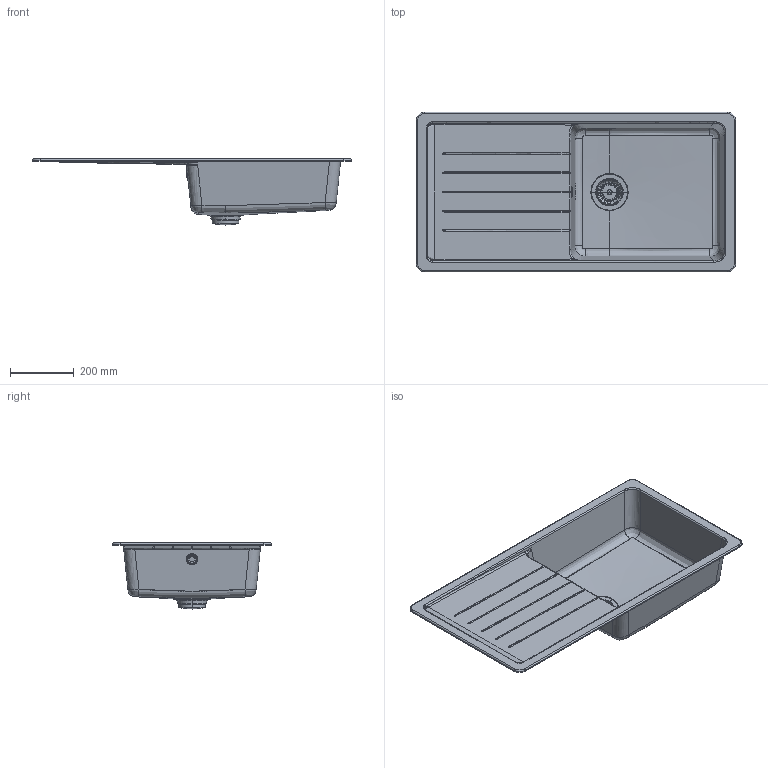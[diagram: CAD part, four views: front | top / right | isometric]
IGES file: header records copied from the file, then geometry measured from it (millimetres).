
Global section: file name: /Users/office3/Desktop/SPU; preprocessor: Trout Lake IGES 012 Dec  4 2019; date: 210309.161106; units: millimetre
Bounding box: 1000 x 500 x 207.23 mm (x, y, z)
Surface area: 801865.8 mm2 (no closed solid volume)
Topology: 0 solids, 0 shells, 326 faces, 40334 edges, 40324 vertices
Faces by surface type: bspline 316, plane 10
